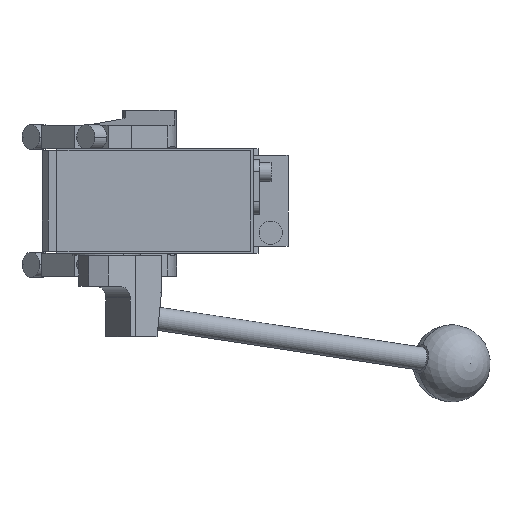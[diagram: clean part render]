
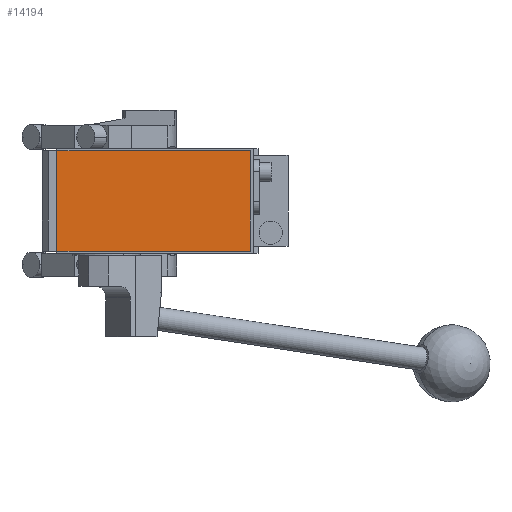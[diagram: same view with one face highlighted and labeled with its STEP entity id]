
A CAD part, front view. The second image highlights one B-rep face of the part: STEP entity #14194.
In plain terms, the highlighted planar face has unit normal (0, -1, 0).
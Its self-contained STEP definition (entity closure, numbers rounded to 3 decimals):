
#154 = LINE ( 'NONE', #8479, #2215 ) ;
#179 = EDGE_LOOP ( 'NONE', ( #12510, #2786, #8195, #2482 ) ) ;
#408 = CARTESIAN_POINT ( 'NONE',  ( -19., -286.5, 26. ) ) ;
#842 = CARTESIAN_POINT ( 'NONE',  ( -19., -286.5, 26. ) ) ;
#1536 = CARTESIAN_POINT ( 'NONE',  ( 0., -286.5, 0. ) ) ;
#1709 = CARTESIAN_POINT ( 'NONE',  ( -19., -286.5, -26. ) ) ;
#1794 = EDGE_CURVE ( 'NONE', #3505, #8483, #6507, .T. ) ;
#2215 = VECTOR ( 'NONE', #14314, 1000. ) ;
#2373 = LINE ( 'NONE', #7034, #14088 ) ;
#2464 = AXIS2_PLACEMENT_3D ( 'NONE', #1536, #5106, #8335 ) ;
#2482 = ORIENTED_EDGE ( 'NONE', *, *, #14432, .T. ) ;
#2769 = FACE_OUTER_BOUND ( 'NONE', #179, .T. ) ;
#2786 = ORIENTED_EDGE ( 'NONE', *, *, #1794, .T. ) ;
#3505 = VERTEX_POINT ( 'NONE', #7519 ) ;
#3774 = PLANE ( 'NONE',  #2464 ) ;
#4764 = EDGE_CURVE ( 'NONE', #8483, #6479, #2373, .T. ) ;
#5106 = DIRECTION ( 'NONE',  ( 0., -1., 0. ) ) ;
#5292 = DIRECTION ( 'NONE',  ( 1., 0., 0. ) ) ;
#5353 = DIRECTION ( 'NONE',  ( 0., 0., -1. ) ) ;
#6233 = EDGE_CURVE ( 'NONE', #14932, #3505, #11212, .T. ) ;
#6479 = VERTEX_POINT ( 'NONE', #14832 ) ;
#6507 = LINE ( 'NONE', #1709, #14576 ) ;
#7034 = CARTESIAN_POINT ( 'NONE',  ( 81., -286.5, 26. ) ) ;
#7519 = CARTESIAN_POINT ( 'NONE',  ( -19., -286.5, -26. ) ) ;
#8195 = ORIENTED_EDGE ( 'NONE', *, *, #4764, .T. ) ;
#8335 = DIRECTION ( 'NONE',  ( 0., 0., -1. ) ) ;
#8479 = CARTESIAN_POINT ( 'NONE',  ( -19., -286.5, 26. ) ) ;
#8483 = VERTEX_POINT ( 'NONE', #14397 ) ;
#11212 = LINE ( 'NONE', #842, #13488 ) ;
#11650 = DIRECTION ( 'NONE',  ( 0., 0., 1. ) ) ;
#12510 = ORIENTED_EDGE ( 'NONE', *, *, #6233, .T. ) ;
#13488 = VECTOR ( 'NONE', #5353, 1000. ) ;
#14088 = VECTOR ( 'NONE', #11650, 1000. ) ;
#14194 = ADVANCED_FACE ( 'NONE', ( #2769 ), #3774, .T. ) ;
#14314 = DIRECTION ( 'NONE',  ( -1., 0., 0. ) ) ;
#14397 = CARTESIAN_POINT ( 'NONE',  ( 81., -286.5, -26. ) ) ;
#14432 = EDGE_CURVE ( 'NONE', #6479, #14932, #154, .T. ) ;
#14576 = VECTOR ( 'NONE', #5292, 1000. ) ;
#14832 = CARTESIAN_POINT ( 'NONE',  ( 81., -286.5, 26. ) ) ;
#14932 = VERTEX_POINT ( 'NONE', #408 ) ;
